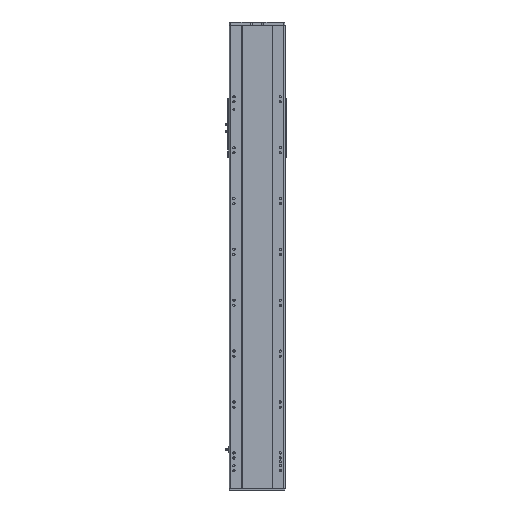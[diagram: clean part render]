
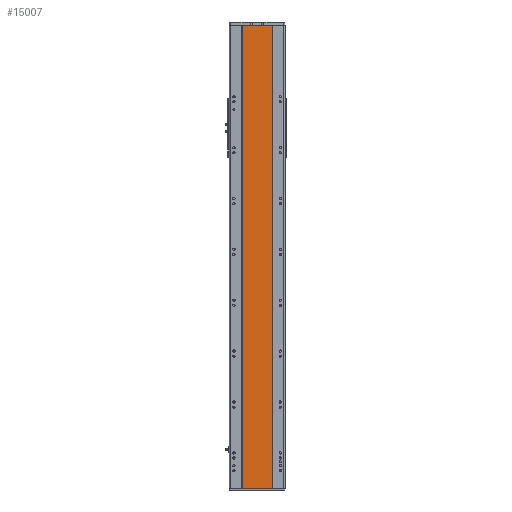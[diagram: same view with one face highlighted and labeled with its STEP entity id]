
A CAD part, front view. The second image highlights one B-rep face of the part: STEP entity #15007.
In plain terms, the highlighted planar face has unit normal (0, -1, 0).
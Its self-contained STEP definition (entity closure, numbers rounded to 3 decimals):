
#3 = VERTEX_POINT ( 'NONE', #17912 ) ;
#1841 = CARTESIAN_POINT ( 'NONE',  ( -59., 1., 910.5 ) ) ;
#2827 = CARTESIAN_POINT ( 'NONE',  ( -59., 1., 910.5 ) ) ;
#6405 = LINE ( 'NONE', #28351, #38122 ) ;
#7306 = CARTESIAN_POINT ( 'NONE',  ( -59., 1., -910.5 ) ) ;
#7421 = ORIENTED_EDGE ( 'NONE', *, *, #19706, .F. ) ;
#12189 = VERTEX_POINT ( 'NONE', #2827 ) ;
#12275 = PLANE ( 'NONE',  #38107 ) ;
#13290 = LINE ( 'NONE', #22712, #20050 ) ;
#15007 = ADVANCED_FACE ( 'NONE', ( #25374 ), #12275, .F. ) ;
#15220 = VECTOR ( 'NONE', #35690, 1000. ) ;
#15910 = CARTESIAN_POINT ( 'NONE',  ( -59., 1., 910.5 ) ) ;
#17912 = CARTESIAN_POINT ( 'NONE',  ( 59., 1., -910.5 ) ) ;
#19706 = EDGE_CURVE ( 'NONE', #12189, #21155, #13290, .T. ) ;
#20050 = VECTOR ( 'NONE', #38204, 1000. ) ;
#20816 = EDGE_CURVE ( 'NONE', #21572, #3, #28709, .T. ) ;
#21155 = VERTEX_POINT ( 'NONE', #28867 ) ;
#21572 = VERTEX_POINT ( 'NONE', #30589 ) ;
#22550 = DIRECTION ( 'NONE',  ( 0., 1., 0. ) ) ;
#22712 = CARTESIAN_POINT ( 'NONE',  ( -59., 1., 910.5 ) ) ;
#24705 = ORIENTED_EDGE ( 'NONE', *, *, #35411, .F. ) ;
#25374 = FACE_OUTER_BOUND ( 'NONE', #29756, .T. ) ;
#27346 = ORIENTED_EDGE ( 'NONE', *, *, #27962, .T. ) ;
#27962 = EDGE_CURVE ( 'NONE', #12189, #21572, #35408, .T. ) ;
#28351 = CARTESIAN_POINT ( 'NONE',  ( 59., 1., 910.5 ) ) ;
#28709 = LINE ( 'NONE', #7306, #33434 ) ;
#28867 = CARTESIAN_POINT ( 'NONE',  ( 59., 1., 910.5 ) ) ;
#29756 = EDGE_LOOP ( 'NONE', ( #30777, #24705, #7421, #27346 ) ) ;
#30589 = CARTESIAN_POINT ( 'NONE',  ( -59., 1., -910.5 ) ) ;
#30777 = ORIENTED_EDGE ( 'NONE', *, *, #20816, .T. ) ;
#32066 = DIRECTION ( 'NONE',  ( 1., 0., 0. ) ) ;
#33434 = VECTOR ( 'NONE', #32066, 1000. ) ;
#34704 = DIRECTION ( 'NONE',  ( -1., 0., 0. ) ) ;
#35408 = LINE ( 'NONE', #1841, #15220 ) ;
#35411 = EDGE_CURVE ( 'NONE', #21155, #3, #6405, .T. ) ;
#35690 = DIRECTION ( 'NONE',  ( 0., 0., -1. ) ) ;
#36993 = DIRECTION ( 'NONE',  ( 0., 0., -1. ) ) ;
#38107 = AXIS2_PLACEMENT_3D ( 'NONE', #15910, #22550, #34704 ) ;
#38122 = VECTOR ( 'NONE', #36993, 1000. ) ;
#38204 = DIRECTION ( 'NONE',  ( 1., 0., 0. ) ) ;
